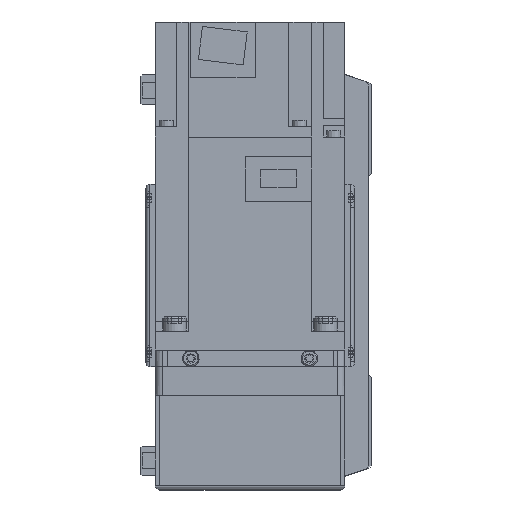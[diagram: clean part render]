
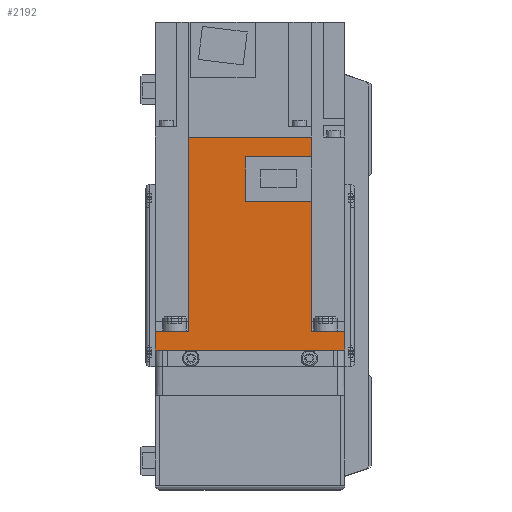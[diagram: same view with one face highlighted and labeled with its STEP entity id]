
A CAD part, left-side view. The second image highlights one B-rep face of the part: STEP entity #2192.
In plain terms, the highlighted planar face has unit normal (-1, 0, 0) as drawn and (1, 0, 0) by its records, which use the part's own axes.
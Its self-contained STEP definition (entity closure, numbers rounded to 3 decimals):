
#2192 = ADVANCED_FACE( '', ( #5153 ), #5154, .F. );
#5153 = FACE_OUTER_BOUND( '', #9081, .T. );
#5154 = PLANE( '', #9082 );
#9081 = EDGE_LOOP( '', ( #15402, #15403, #15404, #15405, #15406, #15407, #15408, #15409, #15410, #15411, #15412, #15413 ) );
#9082 = AXIS2_PLACEMENT_3D( '', #15414, #15415, #15416 );
#15402 = ORIENTED_EDGE( '', *, *, #23934, .F. );
#15403 = ORIENTED_EDGE( '', *, *, #23450, .F. );
#15404 = ORIENTED_EDGE( '', *, *, #23935, .F. );
#15405 = ORIENTED_EDGE( '', *, *, #23211, .T. );
#15406 = ORIENTED_EDGE( '', *, *, #23936, .F. );
#15407 = ORIENTED_EDGE( '', *, *, #23937, .T. );
#15408 = ORIENTED_EDGE( '', *, *, #22026, .T. );
#15409 = ORIENTED_EDGE( '', *, *, #23938, .F. );
#15410 = ORIENTED_EDGE( '', *, *, #23939, .F. );
#15411 = ORIENTED_EDGE( '', *, *, #23451, .F. );
#15412 = ORIENTED_EDGE( '', *, *, #23940, .F. );
#15413 = ORIENTED_EDGE( '', *, *, #23342, .F. );
#15414 = CARTESIAN_POINT( '', ( 40., 89.8, 40. ) );
#15415 = DIRECTION( '', ( -1., 0., 0. ) );
#15416 = DIRECTION( '', ( 0., 0., 1. ) );
#22026 = EDGE_CURVE( '', #26162, #26160, #26163, .T. );
#23211 = EDGE_CURVE( '', #28179, #28177, #28180, .T. );
#23342 = EDGE_CURVE( '', #28394, #28395, #28396, .T. );
#23450 = EDGE_CURVE( '', #28567, #28303, #28569, .T. );
#23451 = EDGE_CURVE( '', #28304, #28570, #28571, .T. );
#23934 = EDGE_CURVE( '', #28303, #28394, #29312, .T. );
#23935 = EDGE_CURVE( '', #28179, #28567, #29313, .T. );
#23936 = EDGE_CURVE( '', #29314, #28177, #29315, .T. );
#23937 = EDGE_CURVE( '', #29314, #26162, #29316, .T. );
#23938 = EDGE_CURVE( '', #29317, #26160, #29318, .T. );
#23939 = EDGE_CURVE( '', #28570, #29317, #29319, .T. );
#23940 = EDGE_CURVE( '', #28395, #28304, #29320, .T. );
#26160 = VERTEX_POINT( '', #32213 );
#26162 = VERTEX_POINT( '', #32216 );
#26163 = LINE( '', #32217, #32218 );
#28177 = VERTEX_POINT( '', #35210 );
#28179 = VERTEX_POINT( '', #35213 );
#28180 = LINE( '', #35214, #35215 );
#28303 = VERTEX_POINT( '', #35384 );
#28304 = VERTEX_POINT( '', #35385 );
#28394 = VERTEX_POINT( '', #35594 );
#28395 = VERTEX_POINT( '', #35595 );
#28396 = LINE( '', #35596, #35597 );
#28567 = VERTEX_POINT( '', #35882 );
#28569 = LINE( '', #35885, #35886 );
#28570 = VERTEX_POINT( '', #35887 );
#28571 = LINE( '', #35888, #35889 );
#29312 = LINE( '', #37601, #37602 );
#29313 = LINE( '', #37603, #37604 );
#29314 = VERTEX_POINT( '', #37605 );
#29315 = LINE( '', #37606, #37607 );
#29316 = LINE( '', #37608, #37609 );
#29317 = VERTEX_POINT( '', #37610 );
#29318 = LINE( '', #37611, #37612 );
#29319 = LINE( '', #37613, #37614 );
#29320 = LINE( '', #37615, #37616 );
#32213 = CARTESIAN_POINT( '', ( 40., 0., -40. ) );
#32216 = CARTESIAN_POINT( '', ( 40., 0., 40. ) );
#32217 = CARTESIAN_POINT( '', ( 40., 0., 40. ) );
#32218 = VECTOR( '', #41381, 1000. );
#35210 = CARTESIAN_POINT( '', ( 40., 8., 25.95 ) );
#35213 = CARTESIAN_POINT( '', ( 40., 89.8, 25.95 ) );
#35214 = CARTESIAN_POINT( '', ( 40., 158., 25.95 ) );
#35215 = VECTOR( '', #42946, 1000. );
#35384 = CARTESIAN_POINT( '', ( 40., 81.4, -25.95 ) );
#35385 = CARTESIAN_POINT( '', ( 40., 62.8, -25.95 ) );
#35594 = CARTESIAN_POINT( '', ( 40., 81.4, 1.8 ) );
#35595 = CARTESIAN_POINT( '', ( 40., 62.8, 1.8 ) );
#35596 = CARTESIAN_POINT( '', ( 40., 81.4, 1.8 ) );
#35597 = VECTOR( '', #43092, 1000. );
#35882 = CARTESIAN_POINT( '', ( 40., 89.8, -25.95 ) );
#35885 = CARTESIAN_POINT( '', ( 40., 158., -25.95 ) );
#35886 = VECTOR( '', #43248, 1000. );
#35887 = CARTESIAN_POINT( '', ( 40., 8., -25.95 ) );
#35888 = CARTESIAN_POINT( '', ( 40., 158., -25.95 ) );
#35889 = VECTOR( '', #43249, 1000. );
#37601 = CARTESIAN_POINT( '', ( 40., 81.4, -26. ) );
#37602 = VECTOR( '', #43789, 1000. );
#37603 = CARTESIAN_POINT( '', ( 40., 89.8, 40. ) );
#37604 = VECTOR( '', #43790, 1000. );
#37605 = CARTESIAN_POINT( '', ( 40., 8., 40. ) );
#37606 = CARTESIAN_POINT( '', ( 40., 8., 40. ) );
#37607 = VECTOR( '', #43791, 1000. );
#37608 = CARTESIAN_POINT( '', ( 40., 89.8, 40. ) );
#37609 = VECTOR( '', #43792, 1000. );
#37610 = CARTESIAN_POINT( '', ( 40., 8., -40. ) );
#37611 = CARTESIAN_POINT( '', ( 40., 89.8, -40. ) );
#37612 = VECTOR( '', #43793, 1000. );
#37613 = CARTESIAN_POINT( '', ( 40., 8., 40. ) );
#37614 = VECTOR( '', #43794, 1000. );
#37615 = CARTESIAN_POINT( '', ( 40., 62.8, 1.8 ) );
#37616 = VECTOR( '', #43795, 1000. );
#41381 = DIRECTION( '', ( 0., 0., -1. ) );
#42946 = DIRECTION( '', ( 0., -1., 0. ) );
#43092 = DIRECTION( '', ( 0., -1., 0. ) );
#43248 = DIRECTION( '', ( 0., -1., 0. ) );
#43249 = DIRECTION( '', ( 0., -1., 0. ) );
#43789 = DIRECTION( '', ( 0., 0., 1. ) );
#43790 = DIRECTION( '', ( 0., 0., -1. ) );
#43791 = DIRECTION( '', ( 0., 0., -1. ) );
#43792 = DIRECTION( '', ( 0., -1., 0. ) );
#43793 = DIRECTION( '', ( 0., -1., 0. ) );
#43794 = DIRECTION( '', ( 0., 0., -1. ) );
#43795 = DIRECTION( '', ( 0., 0., -1. ) );
